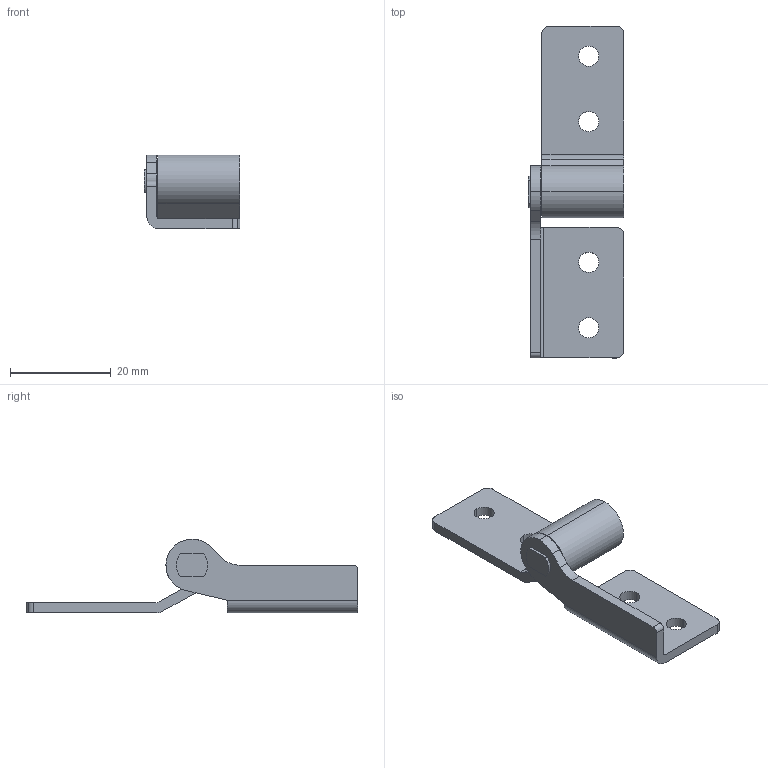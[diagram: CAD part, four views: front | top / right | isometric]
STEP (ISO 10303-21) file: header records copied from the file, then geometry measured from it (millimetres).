
FILE_DESCRIPTION(('STEP AP214'),'1');
FILE_NAME('C:/Users/HAN/Desktop/0024-0010-HNG Rev 0_0.stp','2013-02-28T21:43:10',(' '),(' '),'Spatial InterOp 3D',' ',' ');
FILE_SCHEMA(('automotive_design'));
Length unit declared in the file: millimetre
Products named in the file (3): 0024-0001-BND Rev 0_0; 0024-0002-SHA Rev 0_0; 0024-0003-ADP Rev 0_0
Bounding box: 19.04 x 66 x 14.68 mm (x, y, z)
Volume: 3865.2 mm3; surface area: 4396.1 mm2
Topology: 3 solids, 3 shells, 60 faces, 158 edges, 104 vertices
Faces by surface type: cylinder 32, plane 26, cone 2
Entity records: 2426 total; most frequent: DIRECTION 354, CARTESIAN_POINT 325, ORIENTED_EDGE 316, EDGE_CURVE 158, AXIS2_PLACEMENT_3D 133, VERTEX_POINT 104, LINE 88, VECTOR 88
